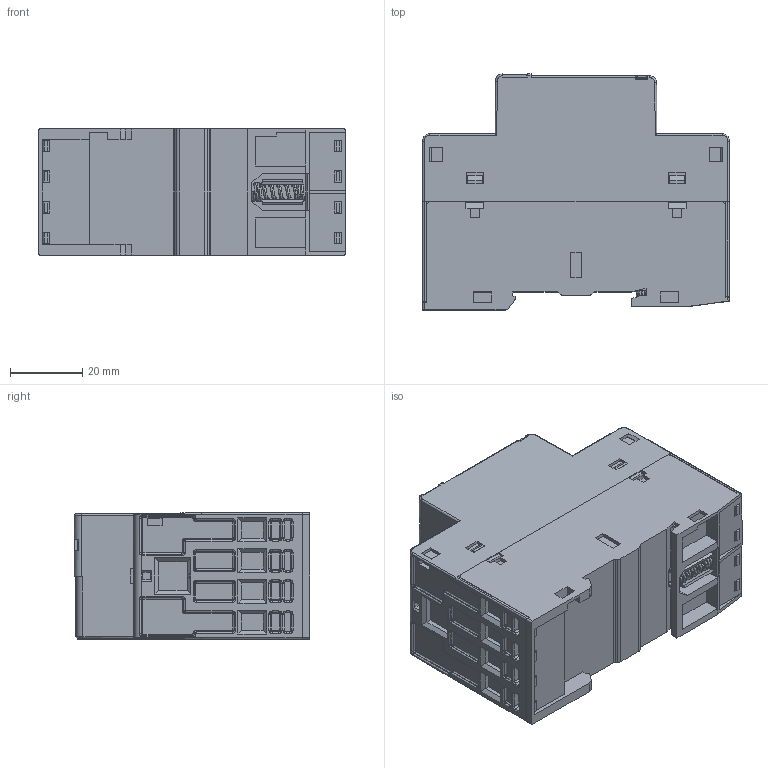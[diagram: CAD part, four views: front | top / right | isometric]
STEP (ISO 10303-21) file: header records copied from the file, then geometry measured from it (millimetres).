
FILE_DESCRIPTION (( 'STEP AP214' ), '1' );
FILE_NAME ('RIC25-xxx-R.STEP', '2021-01-25T12:47:35', ( '' ), ( '' ), 'SwSTEP 2.0', 'SolidWorks 2016', '' );
FILE_SCHEMA (( 'AUTOMOTIVE_DESIGN' ));
Length unit declared in the file: millimetre
Products named in the file (1): RIC25-xxx-R
Bounding box: 85 x 65.4 x 35 mm (x, y, z)
Volume: 154823.8 mm3; surface area: 30920.6 mm2
Topology: 3 solids, 7 shells, 1439 faces, 3758 edges, 2326 vertices
Faces by surface type: plane 818, cylinder 365, torus 140, bspline 116
Entity records: 56684 total; most frequent: CARTESIAN_POINT 23034, ORIENTED_EDGE 7496, DIRECTION 6208, EDGE_CURVE 3748, VERTEX_POINT 2321, VECTOR 2308, LINE 2308, AXIS2_PLACEMENT_3D 1950
